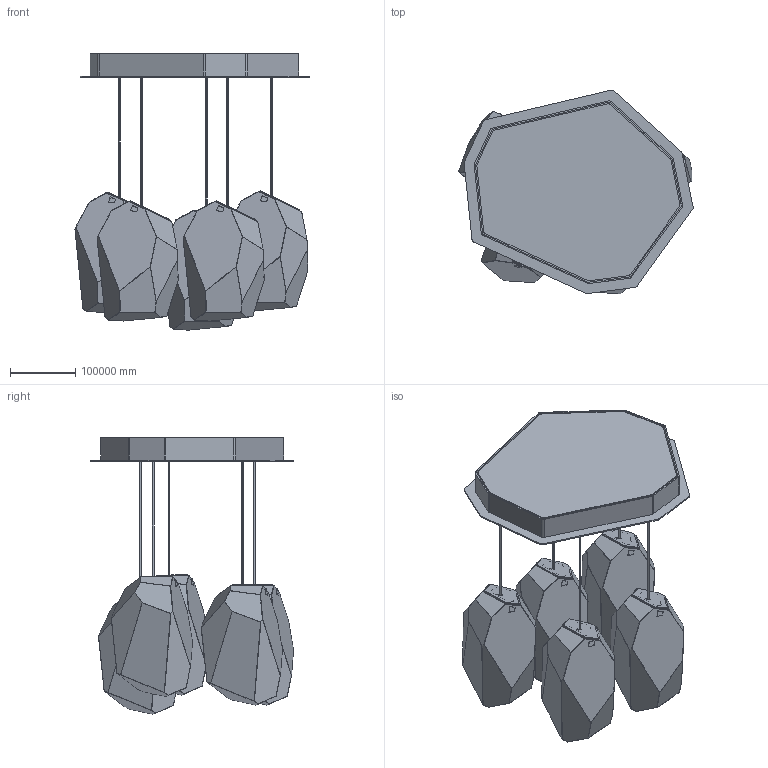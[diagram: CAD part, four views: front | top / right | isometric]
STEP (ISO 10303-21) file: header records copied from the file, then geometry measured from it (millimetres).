
FILE_DESCRIPTION(/* description */ (''),/* implementation_level */ '2;1');
FILE_NAME(/* name */ 'Crystal Rock 5',/* time_stamp */ '2019-01-21T09:13:59+01:00',/* author */ (''),/* organization */ (''),/* preprocessor_version */ 'ST-DEVELOPER v15',/* originating_system */ '',/* authorisation */ '');
FILE_SCHEMA (('AUTOMOTIVE_DESIGN'));
Length unit declared in the file: metre
Products named in the file (2): Document; Rock
Assembly tree (5 placements, depth 2):
  Document
    Rock  x5
Bounding box: 358489.96 x 311385.19 x 423022.74 mm (x, y, z)
Volume: 2607717261135719 mm3; surface area: 994797295378.2 mm2
Topology: 18 solids, 23 shells, 1549 faces, 3814 edges, 2191 vertices
Faces by surface type: bspline 1549
Entity records: 26079 total; most frequent: CARTESIAN_POINT 14377, B_SPLINE_CURVE_WITH_KNOTS 2266, ORIENTED_EDGE 1848, PCURVE 1848, DEFINITIONAL_REPRESENTATION 1848, SURFACE_CURVE 926, EDGE_CURVE 926, VERTEX_POINT 563
